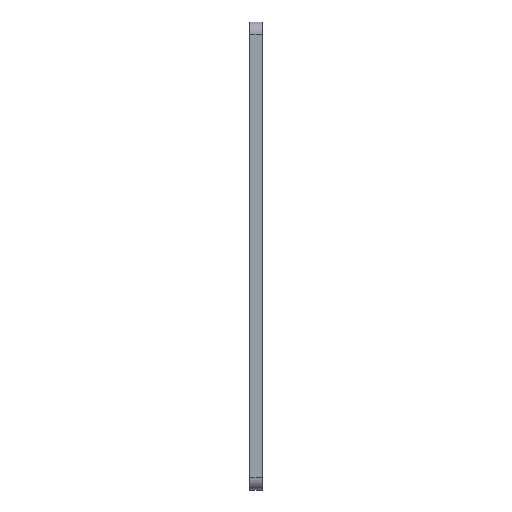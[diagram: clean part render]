
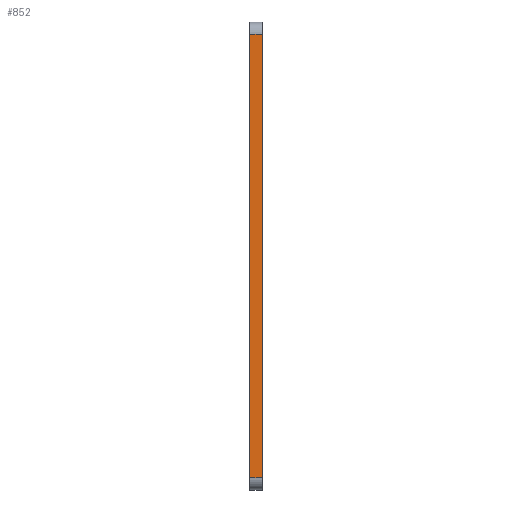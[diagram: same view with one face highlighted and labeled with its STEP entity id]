
A CAD part, left-side view. The second image highlights one B-rep face of the part: STEP entity #852.
In plain terms, the highlighted planar face has unit normal (-1, 0, 0).
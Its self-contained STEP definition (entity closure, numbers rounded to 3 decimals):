
#52=PLANE($,#937);
#93=FACE_OUTER_BOUND($,#142,.T.);
#142=EDGE_LOOP($,(#748,#749,#750,#751));
#216=LINE($,#1383,#296);
#221=LINE($,#1395,#301);
#230=LINE($,#1424,#310);
#231=LINE($,#1426,#311);
#296=VECTOR($,#1137,12.);
#301=VECTOR($,#1148,426.);
#310=VECTOR($,#1179,12.);
#311=VECTOR($,#1182,426.);
#417=VERTEX_POINT($,#1380);
#418=VERTEX_POINT($,#1382);
#422=VERTEX_POINT($,#1394);
#431=VERTEX_POINT($,#1422);
#529=EDGE_CURVE($,#417,#418,#216,.T.);
#535=EDGE_CURVE($,#418,#422,#221,.T.);
#550=EDGE_CURVE($,#422,#431,#230,.T.);
#551=EDGE_CURVE($,#431,#417,#231,.T.);
#748=ORIENTED_EDGE($,*,*,#529,.F.);
#749=ORIENTED_EDGE($,*,*,#551,.F.);
#750=ORIENTED_EDGE($,*,*,#550,.F.);
#751=ORIENTED_EDGE($,*,*,#535,.F.);
#852=ADVANCED_FACE($,(#93),#52,.T.);
#937=AXIS2_PLACEMENT_3D($,#1425,#1180,#1181);
#1137=DIRECTION($,(0.,-1.,0.));
#1148=DIRECTION($,(0.,0.,-1.));
#1179=DIRECTION($,(0.,1.,0.));
#1180=DIRECTION('center_axis',(-1.,0.,0.));
#1181=DIRECTION('ref_axis',(0.,0.,1.));
#1182=DIRECTION($,(0.,0.,1.));
#1380=CARTESIAN_POINT('',(-249.,12.,213.));
#1382=CARTESIAN_POINT('',(-249.,0.,213.));
#1383=CARTESIAN_POINT($,(-249.,0.,213.));
#1394=CARTESIAN_POINT('',(-249.,0.,-213.));
#1395=CARTESIAN_POINT($,(-249.,0.,225.));
#1422=CARTESIAN_POINT('',(-249.,12.,-213.));
#1424=CARTESIAN_POINT($,(-249.,0.,-213.));
#1425=CARTESIAN_POINT('Origin',(-249.,0.,-225.));
#1426=CARTESIAN_POINT($,(-249.,12.,225.));
